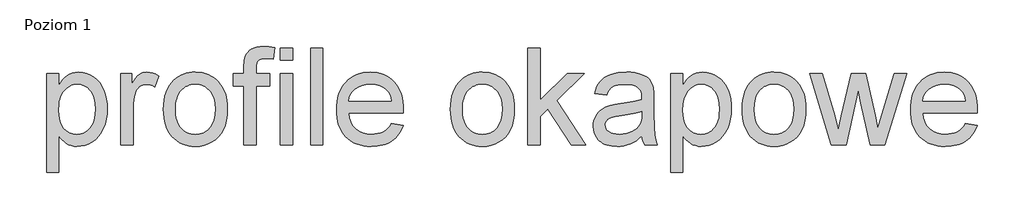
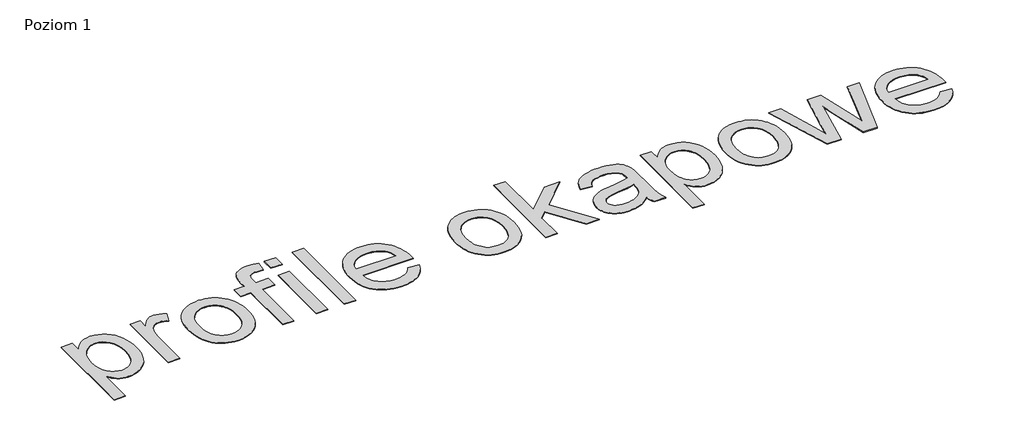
# One storey, part 3 of 4: 1 proxy.
"""IFC4 building model written with IfcOpenShell, lengths in millimetres."""

import ifcopenshell
import ifcopenshell.guid

model = None  # the IFC model being written
_history = None  # IfcOwnerHistory: only IFC2X3 demands one
_inside = {}  # id of a spatial element -> (the spatial element, [elements in it])
_under = {}  # id of a project, library or spatial element -> (it, [spatial elements below it])
_declared = {}  # id of a project -> (the project, [libraries it declares])
_typed = {}  # id of a type object -> (the type object, [elements of that type])
_made_of = {}  # id of a material, layer set ... -> (it, [elements and type objects made of it])


def new_model(schema):
    """Start an empty IFC model of exactly this schema.

    Asked for "IFC4X3", IfcOpenShell would pick the latest addendum, in which some entities
    have other attributes; the version numbers below select the first issue.
    IFC2X3 requires an IfcOwnerHistory on every rooted entity: one is made here for all.
    """
    global model, _history
    if schema == "IFC4X3":
        model = ifcopenshell.file(schema_version=(4, 3, 0, 0))
    else:
        model = ifcopenshell.file(schema=schema)
    _inside.clear()
    _under.clear()
    _declared.clear()
    _typed.clear()
    _made_of.clear()
    _history = None
    if model.schema == "IFC2X3":
        org = make("IfcOrganization", Name="unknown")
        user = make(
            "IfcPersonAndOrganization",
            ThePerson=make("IfcPerson", FamilyName="unknown"),
            TheOrganization=org,
        )
        app = make(
            "IfcApplication",
            ApplicationDeveloper=org,
            Version="unknown",
            ApplicationFullName="unknown",
            ApplicationIdentifier="unknown",
        )
        _history = make(
            "IfcOwnerHistory",
            OwningUser=user,
            OwningApplication=app,
            ChangeAction="ADDED",
            CreationDate=0,
        )
    return model


def make(cls, **values):
    """One entity of the class cls with the attributes given. An attribute that is None is left unset."""
    return model.create_entity(
        cls, **{name: value for name, value in values.items() if value is not None}
    )


def rooted(cls, **values):
    """An entity with a GlobalId (a new one), such as an element, a storey or a relation."""
    return make(cls, GlobalId=ifcopenshell.guid.new(), OwnerHistory=_history, **values)


def si_unit(unit_type, name, prefix=None):
    """IfcSIUnit, for example si_unit("LENGTHUNIT", "METRE", prefix="MILLI")."""
    return make("IfcSIUnit", UnitType=unit_type, Prefix=prefix, Name=name)


def assignment(units):
    """IfcUnitAssignment: the units of a project."""
    return None if units is None else make("IfcUnitAssignment", Units=units)


def point(xyz):
    """IfcCartesianPoint."""
    return None if xyz is None else make("IfcCartesianPoint", Coordinates=xyz)


def direction(xyz):
    """IfcDirection."""
    return None if xyz is None else make("IfcDirection", DirectionRatios=xyz)


def frame(location, z_axis=None, x_axis=None):
    """IfcAxis2Placement3D, a coordinate frame: its origin and axes. An axis left out is left unset."""
    return make(
        "IfcAxis2Placement3D",
        Location=point(location),
        Axis=direction(z_axis),
        RefDirection=direction(x_axis),
    )


def origin():
    """The frame at (0, 0, 0) with its axes left unset."""
    return frame((0.0, 0.0, 0.0))


def origin_with_axes():
    """The frame at (0, 0, 0) with the z axis (0, 0, 1) and the x axis (1, 0, 0) written out."""
    return frame((0.0, 0.0, 0.0), z_axis=(0.0, 0.0, 1.0), x_axis=(1.0, 0.0, 0.0))


def place(relative_to, where):
    """IfcLocalPlacement: puts the frame where relative to a parent placement (None: the world)."""
    return make(
        "IfcLocalPlacement", PlacementRelTo=relative_to, RelativePlacement=where
    )


def context(
    kind, dimensions, precision=None, world=None, true_north=None, identifier=None
):
    """IfcGeometricRepresentationContext, for example the 3D "Model" context."""
    return make(
        "IfcGeometricRepresentationContext",
        ContextIdentifier=identifier,
        ContextType=kind,
        CoordinateSpaceDimension=dimensions,
        Precision=precision,
        WorldCoordinateSystem=world,
        TrueNorth=true_north,
    )


def project(units=None, contexts=None):
    """IfcProject with its units and contexts."""
    return rooted(
        "IfcProject",
        Name="project",
        RepresentationContexts=contexts,
        UnitsInContext=assignment(units),
    )


def spatial(cls, under=None, at=None, **own):
    """A site, building, storey or space (cls), placed at a placement, below another one or the project."""
    s = rooted(cls, ObjectPlacement=at, **own)
    if under is not None:
        _under.setdefault(under.id(), (under, []))[1].append(s)
    return s


def polyline(points):
    """IfcPolyline through the points."""
    return make("IfcPolyline", Points=[point(p) for p in points])


def outline(outer, holes=None, kind="AREA"):
    """IfcArbitraryClosedProfileDef: a profile drawn as a closed curve; with holes, ...WithVoids."""
    if holes is None:
        return make("IfcArbitraryClosedProfileDef", ProfileType=kind, OuterCurve=outer)
    return make(
        "IfcArbitraryProfileDefWithVoids",
        ProfileType=kind,
        OuterCurve=outer,
        InnerCurves=holes,
    )


def extrude(swept, where, along, depth):
    """IfcExtrudedAreaSolid: the profile swept, set in the frame where, extruded along a direction by depth."""
    return make(
        "IfcExtrudedAreaSolid",
        SweptArea=swept,
        Position=where,
        ExtrudedDirection=direction(along),
        Depth=depth,
    )


def shape(context_of_items, identifier, shape_type, items):
    """IfcShapeRepresentation: the items that make up one representation, for example the "Body"."""
    return make(
        "IfcShapeRepresentation",
        ContextOfItems=context_of_items,
        RepresentationIdentifier=identifier,
        RepresentationType=shape_type,
        Items=items,
    )


def made_of(thing, what):
    """Note that an element or type object is made of a material, layer set ...; save() writes the relation."""
    if what is not None:
        _made_of.setdefault(what.id(), (what, []))[1].append(thing)
    return thing


def element(
    cls,
    number,
    at=None,
    inside=None,
    cuts=None,
    type_object=None,
    material=None,
    context=None,
    identifier="Body",
    shape_type=None,
    held_by="IfcProductDefinitionShape",
    body=None,
    shapes=None,
    **own,
):
    """One element of the class cls, such as IfcWall. Its Tag is "e" and its number.

    at: its placement. inside: the storey or other place that contains it. cuts: it is an
    opening in that element (IfcRelVoidsElement). A single representation is given by context,
    identifier, shape_type and body (its items); several are given by shapes. held_by: the class
    of the entity that holds the representations. save() writes the other relations.
    """
    e = rooted(cls, Tag="e%d" % number, ObjectPlacement=at, **own)
    if body is not None:
        shapes = [shape(context, identifier, shape_type, body)]
    if shapes is not None:
        e.Representation = make(held_by, Representations=shapes)
    if inside is not None:
        _inside.setdefault(inside.id(), (inside, []))[1].append(e)
    if cuts is not None:
        rooted(
            "IfcRelVoidsElement", RelatingBuildingElement=cuts, RelatedOpeningElement=e
        )
    if type_object is not None:
        _typed.setdefault(type_object.id(), (type_object, []))[1].append(e)
    return made_of(e, material)


def aggregate(whole, parts):
    """IfcRelAggregates: a whole, such as a stair, and the parts it consists of."""
    return rooted("IfcRelAggregates", RelatingObject=whole, RelatedObjects=parts)


def save(model, path):
    """Write the relations noted so far, then the file.

    IfcRelAggregates (storeys below a building ...), IfcRelContainedInSpatialStructure (elements
    in a storey), IfcRelDefinesByType, IfcRelAssociatesMaterial and IfcRelDeclares: one each for
    every whole, place, type object, material and project.
    """
    for whole, parts in _under.values():
        aggregate(whole, parts)
    for where, things in _inside.values():
        rooted(
            "IfcRelContainedInSpatialStructure",
            RelatedElements=things,
            RelatingStructure=where,
        )
    for kind, things in _typed.values():
        rooted("IfcRelDefinesByType", RelatedObjects=things, RelatingType=kind)
    for what, things in _made_of.values():
        rooted("IfcRelAssociatesMaterial", RelatedObjects=things, RelatingMaterial=what)
    for by, libraries in _declared.values():
        rooted("IfcRelDeclares", RelatingContext=by, RelatedDefinitions=libraries)
    model.write(path)


model = new_model("IFC4")

# Units and contexts
model_context = context("Model", 3, world=origin())
ifc_project = project(units=[si_unit("LENGTHUNIT", "METRE", prefix="MILLI")], contexts=[model_context])

# Site, building, storey
site = spatial("IfcSite", under=ifc_project)
building = spatial("IfcBuilding", under=site)
storey = spatial("IfcBuildingStorey", under=building, Name="Poziom 1", Elevation=0.0)

# Proxy
placement = place(None, origin())
element("IfcBuildingElementProxy", 1, Name="1500 mm Arial", ObjectType="1500 mm Arial", at=placement, inside=storey, context=model_context, shape_type="SweptSolid", body=[
    extrude(outline(polyline([(-117704.3368673, 68747.1535212), (-117704.3368673, 70277.5426211), (-117515.9812857, 70277.5426211), (-117515.9812857, 70092.8658595), (-117486.1828441, 70141.6677054), (-117454.5449925, 70183.9626386), (-117421.067731, 70219.7506589), (-117385.7510594, 70249.0317665), (-117347.5833024, 70271.8059612), (-117305.5527845, 70288.0732432), (-117259.6595056, 70297.8336124), (-117209.9034657, 70301.0870688), (-117144.213537, 70296.5345291), (-117082.5243249, 70282.87691), (-117024.8358295, 70260.1142116), (-116971.1480509, 70228.2464337), (-116922.6336128, 70188.101311), (-116880.4651391, 70140.5065779), (-116844.6426298, 70085.4622344), (-116815.1660849, 70022.9682804), (-116792.1504676, 69955.1630302), (-116775.7107409, 69884.1847978), (-116765.8469049, 69810.0335831), (-116762.5589596, 69732.7093862), (-116766.2722685, 69650.0394041), (-116777.4121952, 69571.6230576), (-116795.9787396, 69497.4603466), (-116821.9719018, 69427.5512712), (-116855.0352961, 69363.7237451), (-116894.8125369, 69307.8056818), (-116941.303624, 69259.7970814), (-116994.5085576, 69219.697944), (-117051.8176746, 69188.0715887), (-117110.6213123, 69165.4813349), (-117170.9194706, 69151.9271827), (-117232.7121494, 69147.4091319), (-117277.1683893, 69150.4326621), (-117319.3023741, 69159.5032525), (-117359.1141037, 69174.6209033), (-117396.6035783, 69195.7856143), (-117431.3109453, 69221.5718429), (-117462.7763522, 69250.5540463), (-117490.999799, 69282.7322246), (-117515.9812857, 69318.1063777), (-117515.9812857, 68747.1535212), (-117704.3368673, 68747.1535212)]), holes=[polyline([(-117515.9812857, 69715.4189325), (-117510.8884194, 69624.6440502), (-117495.6098202, 69546.5610967), (-117484.1508709, 69512.2790933), (-117470.1454884, 69481.170072), (-117453.5936727, 69453.234033), (-117434.4954238, 69428.4709762), (-117391.5796898, 69387.9119863), (-117344.3183497, 69358.9412791), (-117292.7114036, 69341.5588549), (-117236.7588514, 69335.7647135), (-117180.0015573, 69341.7657885), (-117153.2007792, 69349.2671323), (-117127.4519136, 69359.7690136), (-117079.1099201, 69389.7743889), (-117034.975577, 69431.7819142), (-117015.2737717, 69457.4359352), (-116998.1988738, 69486.3893979), (-116983.7508833, 69518.6423021), (-116971.9298001, 69554.1946481), (-116962.7356243, 69593.0464357), (-116956.1683559, 69635.1976649), (-116950.9145411, 69729.3984483), (-116956.0418964, 69819.3915814), (-116971.4239624, 69897.3365791), (-116982.9605118, 69931.7910272), (-116997.0607389, 69963.2334415), (-117013.7246437, 69991.6638219), (-117032.9522261, 70017.0821685), (-117075.9714269, 70058.9287455), (-117122.9913444, 70088.8191576), (-117174.0119786, 70106.7534048), (-117229.0333295, 70112.7314873), (-117256.8630276, 70111.1421221), (-117283.8822357, 70106.3740265), (-117310.0909538, 70098.4272006), (-117335.4891818, 70087.3016443), (-117383.8541679, 70055.5143407), (-117428.9771939, 70011.0121156), (-117449.3687779, 69984.1423596), (-117467.0414841, 69954.3927773), (-117481.9953123, 69921.7633688), (-117494.2302628, 69886.254134), (-117503.7463353, 69847.865073), (-117510.54353, 69806.5961857), (-117515.9812857, 69715.4189325)])]), origin_with_axes(), (0.0, 0.0, 1.0), 10.0),
    extrude(outline(polyline([(-116550.6589304, 69170.9535796), (-116550.6589304, 70277.5426211), (-116385.8477965, 70277.5426211), (-116385.8477965, 70113.8351332), (-116354.8077532, 70166.1663471), (-116324.9633263, 70208.748688), (-116296.314516, 70241.5821561), (-116268.8613221, 70264.6667513), (-116241.3621429, 70280.6006402), (-116212.5753768, 70291.9819894), (-116182.5010237, 70298.8107989), (-116151.1390836, 70301.0870688), (-116104.4180702, 70297.4542341), (-116057.3291748, 70286.55573), (-116009.8723975, 70268.3915565), (-115962.0477381, 70242.9617136), (-116024.9555593, 70074.1038778), (-116058.0649388, 70091.0034569), (-116091.1743184, 70103.0745849), (-116124.283698, 70110.3172617), (-116157.3930775, 70112.7314873), (-116186.2603178, 70110.4092322), (-116213.6330375, 70103.4424669), (-116239.5112366, 70091.8311914), (-116263.8949151, 70075.5754058), (-116285.864368, 70055.2039403), (-116304.4998904, 70031.2456253), (-116319.8014821, 70003.7004609), (-116331.7691433, 69972.5684471), (-116345.1278582, 69921.1569383), (-116354.6697975, 69867.3541965), (-116360.394961, 69811.1602217), (-116362.3033489, 69752.575014), (-116362.3033489, 69170.9535796), (-116550.6589304, 69170.9535796)])), origin_with_axes(), (0.0, 0.0, 1.0), 10.0),
    extrude(outline(polyline([(-115891.414395, 69724.2481004), (-115888.8679618, 69798.3820705), (-115881.2286623, 69867.5611301), (-115868.4964964, 69931.785279), (-115850.6714641, 69991.0545174), (-115827.7535654, 70045.3688451), (-115799.7428004, 70094.7282621), (-115766.6391689, 70139.1327686), (-115728.4426712, 70178.5823644), (-115693.4823853, 70207.2944045), (-115656.6596969, 70232.1781726), (-115617.9746058, 70253.2336686), (-115577.4271121, 70270.4608927), (-115535.0172159, 70283.8598447), (-115490.744917, 70293.4305248), (-115444.6102156, 70299.1729328), (-115396.6131115, 70301.0870688), (-115343.411052, 70298.7561915), (-115292.6979442, 70291.7635595), (-115244.473788, 70280.1091728), (-115198.7385834, 70263.7930315), (-115155.4923304, 70242.8151356), (-115114.735029, 70217.175485), (-115076.4666793, 70186.8740797), (-115040.6872812, 70151.9109198), (-115008.3107915, 70112.8378282), (-114980.2511672, 70070.2066279), (-114956.5084081, 70024.0173189), (-114937.0825143, 69974.2699013), (-114921.9734858, 69920.964375), (-114911.1813226, 69864.1007401), (-114904.7060246, 69803.6789965), (-114902.547592, 69739.6991442), (-114906.3643677, 69638.8764849), (-114917.8146948, 69549.4121821), (-114936.8985733, 69471.306236), (-114963.6160032, 69404.5586465), (-114997.6335914, 69346.9046401), (-115038.617945, 69296.0794432), (-115086.5690638, 69252.0830559), (-115141.4869479, 69214.915478), (-115201.2332831, 69185.3814516), (-115263.6697555, 69164.2857184), (-115328.796365, 69151.6282786), (-115396.6131115, 69147.4091319), (-115450.6544018, 69149.731387), (-115502.0457921, 69156.6981523), (-115550.7872823, 69168.3094278), (-115596.8788726, 69184.5652134), (-115640.3205629, 69205.4655093), (-115681.1123532, 69231.0103153), (-115719.2542435, 69261.1996316), (-115754.7462338, 69296.033458), (-115786.7778341, 69335.2358831), (-115814.5385543, 69378.5309954), (-115838.0283946, 69425.9187949), (-115857.2473547, 69477.3992816), (-115872.1954349, 69532.9724555), (-115882.8726349, 69592.6383166), (-115889.278955, 69656.3968649), (-115891.414395, 69724.2481004)]), holes=[polyline([(-115703.0588135, 69724.6159824), (-115697.6095614, 69633.2547881), (-115690.7979964, 69592.1698419), (-115681.2618053, 69554.1486628), (-115669.0009882, 69519.1912511), (-115654.015545, 69487.2976065), (-115636.3054758, 69458.4677292), (-115615.8707806, 69432.7016192), (-115593.3724974, 69409.9820319), (-115569.471664, 69390.2917229), (-115544.1682805, 69373.6306923), (-115517.4623469, 69359.9989399), (-115489.3538632, 69349.3964658), (-115459.8428294, 69341.8232701), (-115396.6131115, 69335.7647135), (-115333.7052903, 69341.857759), (-115304.320716, 69349.4740659), (-115276.3156991, 69360.1368956), (-115249.6902397, 69373.8462481), (-115224.4443378, 69390.6021234), (-115200.5779933, 69410.4045214), (-115178.0912064, 69433.2534422), (-115157.6565112, 69459.2236118), (-115139.946442, 69488.3897562), (-115124.9609989, 69520.7518755), (-115112.7001817, 69556.3099696), (-115103.1639906, 69595.0640385), (-115096.3524256, 69637.0140823), (-115090.9031735, 69730.5020943), (-115096.3869145, 69818.9662178), (-115103.2415907, 69858.9130291), (-115112.8381375, 69896.0030069), (-115125.1765547, 69930.236151), (-115140.2568424, 69961.6124614), (-115158.0790007, 69990.1319383), (-115178.6430294, 70015.7945815), (-115225.1686054, 70058.2044778), (-115250.4231296, 70074.8655085), (-115277.0054778, 70088.4972608), (-115304.9156501, 70099.0997349), (-115334.1536465, 70106.6729307), (-115396.6131115, 70112.7314873), (-115459.8428294, 70106.6959233), (-115489.3538632, 70099.1514683), (-115517.4623469, 70088.5892313), (-115544.1682805, 70075.0092124), (-115569.471664, 70058.4114114), (-115593.3724974, 70038.7958285), (-115615.8707806, 70016.1624635), (-115636.3054758, 69990.4825758), (-115654.015545, 69961.7274246), (-115669.0009882, 69929.8970097), (-115681.2618053, 69894.9913314), (-115690.7979964, 69857.0103894), (-115697.6095614, 69815.954184), (-115703.0588135, 69724.6159824)])]), origin_with_axes(), (0.0, 0.0, 1.0), 10.0),
    extrude(outline(polyline([(-114643.5586674, 69170.9535796), (-114643.5586674, 70089.1870396), (-114808.3698012, 70089.1870396), (-114808.3698012, 70277.5426211), (-114643.5586674, 70277.5426211), (-114643.5586674, 70389.0108656), (-114638.5922604, 70481.2572759), (-114632.3842518, 70517.1027778), (-114623.6930396, 70546.0964776), (-114607.3222909, 70579.0449088), (-114585.8011941, 70608.7283873), (-114559.1297495, 70635.146913), (-114527.3079569, 70658.3004861), (-114489.6460377, 70677.1314457), (-114445.454213, 70690.5821312), (-114394.7324829, 70698.6525425), (-114337.4808474, 70701.3426795), (-114255.719074, 70696.1923316), (-114165.6799556, 70680.7412878), (-114193.2711053, 70504.1579301), (-114249.0971981, 70510.779806), (-114301.7962939, 70512.987098), (-114340.6653259, 70511.0327249), (-114373.3953272, 70505.1696056), (-114399.9862976, 70495.3977401), (-114420.4382373, 70481.7171284), (-114435.6478585, 70462.7022278), (-114446.5118737, 70436.9274955), (-114453.0302828, 70404.3929316), (-114455.2030859, 70365.098536), (-114455.2030859, 70277.5426211), (-114243.3030566, 70277.5426211), (-114243.3030566, 70089.1870396), (-114455.2030859, 70089.1870396), (-114455.2030859, 69170.9535796), (-114643.5586674, 69170.9535796)])), origin_with_axes(), (0.0, 0.0, 1.0), 10.0),
    extrude(outline(polyline([(-114078.4919228, 69170.9535796), (-114078.4919228, 70277.5426211), (-113890.1363413, 70277.5426211), (-113890.1363413, 69170.9535796), (-114078.4919228, 69170.9535796)])), origin_with_axes(), (0.0, 0.0, 1.0), 10.0),
    extrude(outline(polyline([(-114078.4919228, 70489.4426503), (-114078.4919228, 70677.7982319), (-113890.1363413, 70677.7982319), (-113890.1363413, 70489.4426503), (-114078.4919228, 70489.4426503)])), origin_with_axes(), (0.0, 0.0, 1.0), 10.0),
    extrude(outline(polyline([(-113607.602969, 69170.9535796), (-113607.602969, 70677.7982319), (-113419.2473874, 70677.7982319), (-113419.2473874, 69170.9535796), (-113607.602969, 69170.9535796)])), origin_with_axes(), (0.0, 0.0, 1.0), 10.0),
    extrude(outline(polyline([(-112361.9545333, 69500.5758473), (-112177.2777717, 69477.0313996), (-112205.593189, 69403.0641259), (-112223.4670807, 69369.3741826), (-112243.8184276, 69337.8800349), (-112266.6472298, 69308.5816829), (-112291.9534874, 69281.4791265), (-112319.7372003, 69256.5723658), (-112349.9983685, 69233.8614008), (-112382.5875399, 69213.5991503), (-112417.3552625, 69196.0385332), (-112454.3015363, 69181.1795494), (-112493.4263613, 69169.0221991), (-112578.2116649, 69152.8123987), (-112671.7111732, 69147.4091319), (-112731.7391682, 69149.7400092), (-112788.5826846, 69156.7326412), (-112842.2417225, 69168.3870279), (-112892.7162818, 69184.7031692), (-112940.0063627, 69205.6810651), (-112984.111965, 69231.3207158), (-113025.0330888, 69261.622121), (-113062.7697341, 69296.585281), (-113096.6551148, 69335.7560912), (-113126.0224447, 69378.6804475), (-113150.8717238, 69425.3583497), (-113171.2029522, 69475.7897979), (-113187.0161298, 69529.974792), (-113198.3112567, 69587.9133322), (-113205.0883328, 69649.6054184), (-113207.3473582, 69715.0510505), (-113205.0653402, 69782.7240931), (-113198.2192862, 69846.4998859), (-113186.8091962, 69906.3784288), (-113170.8350702, 69962.3597217), (-113150.2969082, 70014.4437648), (-113125.1947102, 70062.630558), (-113095.5284761, 70106.9201014), (-113061.2982061, 70147.3123948), (-113023.4293533, 70183.353334), (-112982.8473707, 70214.5888147), (-112939.5522584, 70241.0188368), (-112893.5440163, 70262.6434003), (-112844.8226446, 70279.4625053), (-112793.3881431, 70291.4761517), (-112739.240512, 70298.6843395), (-112682.3797511, 70301.0870688), (-112627.3785187, 70298.6900877), (-112574.9467122, 70291.4991443), (-112525.0843315, 70279.5142387), (-112477.7913765, 70262.7353708), (-112433.0678474, 70241.1625407), (-112390.9137441, 70214.7957483), (-112351.3290666, 70183.6349937), (-112314.3138149, 70147.6802768), (-112280.8164348, 70107.3799539), (-112251.7853721, 70063.182381), (-112227.2206266, 70015.0875583), (-112207.1221986, 69963.0954857), (-112191.4900879, 69907.2061632), (-112180.3242945, 69847.4195909), (-112173.6248185, 69783.7357686), (-112171.3916598, 69716.1546965), (-112172.4953058, 69665.3869811), (-113018.9917767, 69665.3869811), (-113008.0817763, 69590.224091), (-112998.5829482, 69556.143273), (-112986.3882349, 69524.3962065), (-112971.4976363, 69494.9828913), (-112953.9111525, 69467.9033276), (-112933.6287834, 69443.1575153), (-112910.6505291, 69420.7454543), (-112858.9975977, 69383.5663802), (-112801.3435913, 69357.0098987), (-112737.6885098, 69341.0760098), (-112668.0323533, 69335.7647135), (-112615.9310657, 69338.2249243), (-112567.7845096, 69345.6055568), (-112523.5926849, 69357.906611), (-112483.3555917, 69375.1280869), (-112447.0732299, 69397.729837), (-112414.7455996, 69426.1717138), (-112386.3727007, 69460.4537172), (-112361.9545333, 69500.5758473)]), holes=[polyline([(-113018.9917767, 69853.7425627), (-112359.7472413, 69853.7425627), (-112369.4271363, 69907.0394667), (-112385.2230695, 69953.2546424), (-112407.1350408, 69992.3880896), (-112435.1630503, 70024.4398084), (-112459.9605961, 70045.1331707), (-112486.5285739, 70063.0674179), (-112514.8669839, 70078.2425502), (-112544.9758259, 70090.6585676), (-112610.5048063, 70107.2132573), (-112683.1155151, 70112.7314873), (-112749.3457705, 70108.3283996), (-112810.0807887, 70095.1191367), (-112865.3205695, 70073.1036986), (-112915.065113, 70042.2820852), (-112956.8082232, 70004.0798393), (-112988.0437038, 69959.9225035), (-113008.771555, 69909.810078), (-113018.9917767, 69853.7425627)])]), origin_with_axes(), (0.0, 0.0, 1.0), 10.0),
    extrude(outline(polyline([(-111441.5137814, 69724.2481004), (-111438.9673482, 69798.3820705), (-111431.3280486, 69867.5611301), (-111418.5958827, 69931.785279), (-111400.7708504, 69991.0545174), (-111377.8529517, 70045.3688451), (-111349.8421867, 70094.7282621), (-111316.7385553, 70139.1327686), (-111278.5420575, 70178.5823644), (-111243.5817716, 70207.2944045), (-111206.7590832, 70232.1781726), (-111168.0739921, 70253.2336686), (-111127.5264985, 70270.4608927), (-111085.1166022, 70283.8598447), (-111040.8443034, 70293.4305248), (-110994.7096019, 70299.1729328), (-110946.7124979, 70301.0870688), (-110893.5104384, 70298.7561915), (-110842.7973305, 70291.7635595), (-110794.5731743, 70280.1091728), (-110748.8379697, 70263.7930315), (-110705.5917167, 70242.8151356), (-110664.8344154, 70217.175485), (-110626.5660656, 70186.8740797), (-110590.7866675, 70151.9109198), (-110558.4101779, 70112.8378282), (-110530.3505535, 70070.2066279), (-110506.6077944, 70024.0173189), (-110487.1819006, 69974.2699013), (-110472.0728721, 69920.964375), (-110461.2807089, 69864.1007401), (-110454.805411, 69803.6789965), (-110452.6469783, 69739.6991442), (-110456.463754, 69638.8764849), (-110467.9140811, 69549.4121821), (-110486.9979596, 69471.306236), (-110513.7153895, 69404.5586465), (-110547.7329778, 69346.9046401), (-110588.7173313, 69296.0794432), (-110636.6684501, 69252.0830559), (-110691.5863342, 69214.915478), (-110751.3326695, 69185.3814516), (-110813.7691418, 69164.2857184), (-110878.8957513, 69151.6282786), (-110946.7124979, 69147.4091319), (-111000.7537881, 69149.731387), (-111052.1451784, 69156.6981523), (-111100.8866687, 69168.3094278), (-111146.978259, 69184.5652134), (-111190.4199493, 69205.4655093), (-111231.2117396, 69231.0103153), (-111269.3536299, 69261.1996316), (-111304.8456202, 69296.033458), (-111336.8772204, 69335.2358831), (-111364.6379407, 69378.5309954), (-111388.1277809, 69425.9187949), (-111407.3467411, 69477.3992816), (-111422.2948212, 69532.9724555), (-111432.9720213, 69592.6383166), (-111439.3783413, 69656.3968649), (-111441.5137814, 69724.2481004)]), holes=[polyline([(-111253.1581998, 69724.6159824), (-111247.7089478, 69633.2547881), (-111240.8973827, 69592.1698419), (-111231.3611916, 69554.1486628), (-111219.1003745, 69519.1912511), (-111204.1149314, 69487.2976065), (-111186.4048622, 69458.4677292), (-111165.970167, 69432.7016192), (-111143.4718837, 69409.9820319), (-111119.5710503, 69390.2917229), (-111094.2676669, 69373.6306923), (-111067.5617333, 69359.9989399), (-111039.4532496, 69349.3964658), (-111009.9422158, 69341.8232701), (-110946.7124979, 69335.7647135), (-110883.8046767, 69341.857759), (-110854.4201023, 69349.4740659), (-110826.4150854, 69360.1368956), (-110799.789626, 69373.8462481), (-110774.5437241, 69390.6021234), (-110750.6773797, 69410.4045214), (-110728.1905927, 69433.2534422), (-110707.7558975, 69459.2236118), (-110690.0458283, 69488.3897562), (-110675.0603852, 69520.7518755), (-110662.7995681, 69556.3099696), (-110653.263377, 69595.0640385), (-110646.4518119, 69637.0140823), (-110641.0025599, 69730.5020943), (-110646.4863009, 69818.9662178), (-110653.3409771, 69858.9130291), (-110662.9375238, 69896.0030069), (-110675.2759411, 69930.236151), (-110690.3562288, 69961.6124614), (-110708.178387, 69990.1319383), (-110728.7424157, 70015.7945815), (-110775.2679918, 70058.2044778), (-110800.5225159, 70074.8655085), (-110827.1048642, 70088.4972608), (-110855.0150365, 70099.0997349), (-110884.2530329, 70106.6729307), (-110946.7124979, 70112.7314873), (-111009.9422158, 70106.6959233), (-111039.4532496, 70099.1514683), (-111067.5617333, 70088.5892313), (-111094.2676669, 70075.0092124), (-111119.5710503, 70058.4114114), (-111143.4718837, 70038.7958285), (-111165.970167, 70016.1624635), (-111186.4048622, 69990.4825758), (-111204.1149314, 69961.7274246), (-111219.1003745, 69929.8970097), (-111231.3611916, 69894.9913314), (-111240.8973827, 69857.0103894), (-111247.7089478, 69815.954184), (-111253.1581998, 69724.6159824)])]), origin_with_axes(), (0.0, 0.0, 1.0), 10.0),
    extrude(outline(polyline([(-110240.7469491, 69170.9535796), (-110240.7469491, 70677.7982319), (-110052.3913676, 70677.7982319), (-110052.3913676, 69868.0899605), (-109630.0628371, 70277.5426211), (-109369.6023845, 70277.5426211), (-109797.0812629, 69862.9396125), (-109346.0579368, 69170.9535796), (-109566.05137, 69170.9535796), (-109932.0939552, 69731.9736223), (-110052.3913676, 69615.3550298), (-110052.3913676, 69170.9535796), (-110240.7469491, 69170.9535796)])), origin_with_axes(), (0.0, 0.0, 1.0), 10.0),
    extrude(outline(polyline([(-108474.9133723, 69312.2202658), (-108519.5765457, 69270.3047109), (-108564.9065053, 69235.0570173), (-108610.903251, 69206.4771848), (-108657.5667829, 69184.5652134), (-108705.4259312, 69168.3094278), (-108755.0095263, 69156.6981523), (-108806.3175684, 69149.731387), (-108859.3500572, 69147.4091319), (-108943.2156558, 69152.9963397), (-108981.2770719, 69159.9803495), (-109016.7575659, 69169.7579631), (-109049.6571378, 69182.3291807), (-109079.9757875, 69197.6940021), (-109107.7135151, 69215.8524275), (-109132.8703206, 69236.8044567), (-109155.2450185, 69259.929289), (-109174.6364234, 69284.6061235), (-109191.0445352, 69310.8349601), (-109204.4693539, 69338.6157989), (-109214.9108796, 69367.9486399), (-109222.3691123, 69398.833483), (-109228.3356984, 69465.2591758), (-109226.0824212, 69505.1973649), (-109219.3225895, 69543.3421292), (-109208.0562034, 69579.6934689), (-109192.2832629, 69614.2513838), (-109172.8429987, 69646.2571174), (-109150.5746417, 69674.951913), (-109125.4781918, 69700.3357707), (-109097.5536491, 69722.4086904), (-109035.2436362, 69758.2771849), (-108965.6679538, 69784.2128656), (-108897.8856962, 69798.6522339), (-108802.69623, 69812.5397792), (-108699.0914631, 69826.7952065), (-108610.1100055, 69842.3382208), (-108535.7518572, 69859.1688221), (-108476.0170182, 69877.2870104), (-108474.9133723, 69919.2255578), (-108478.1553323, 69964.8889105), (-108487.8812126, 70003.2865937), (-108504.091013, 70034.4186075), (-108526.7847336, 70058.284952), (-108566.0101513, 70082.1053112), (-108613.7888254, 70099.1198534), (-108670.120756, 70109.3285788), (-108735.0059428, 70112.7314873), (-108795.3385901, 70110.4667137), (-108847.2099514, 70103.6723931), (-108890.6200268, 70092.3485255), (-108925.5688164, 70076.4951107), (-108954.2866046, 70054.8705472), (-108979.0036762, 70026.2332331), (-108999.720031, 69990.5831686), (-109016.4356692, 69947.9203534), (-109204.7912507, 69971.4648011), (-109190.4553492, 70025.7273954), (-109172.0957384, 70074.4717598), (-109149.7124182, 70117.6978942), (-109123.3053888, 70155.4057987), (-109091.736515, 70188.3542299), (-109053.8676622, 70217.3019444), (-109009.6988301, 70242.2489422), (-108959.2300189, 70263.1952233), (-108903.4844003, 70279.7729057), (-108843.4851462, 70291.6141074), (-108779.2322565, 70298.7188285), (-108710.7257312, 70301.0870688), (-108643.7597117, 70298.9947399), (-108583.3925756, 70292.7177534), (-108529.6243227, 70282.2561092), (-108482.4549532, 70267.6098072), (-108441.4935923, 70249.8020194), (-108406.3493654, 70229.8559175), (-108377.0222726, 70207.7715015), (-108353.5123139, 70183.5487713), (-108334.451428, 70156.5899189), (-108318.4715538, 70126.2971358), (-108305.5726914, 70092.6704222), (-108295.7548406, 70055.709778), (-108288.8570532, 69990.5946649), (-108286.5577907, 69890.8986442), (-108286.5577907, 69656.5578132), (-108284.1665578, 69452.4292912), (-108276.9928589, 69329.3267785), (-108262.829402, 69248.4387248), (-108239.4688953, 69170.9535796), (-108427.8244769, 69170.9535796), (-108444.5631077, 69202.4074902), (-108457.9908005, 69236.4365748), (-108468.1075553, 69273.0408333), (-108474.9133723, 69312.2202658)]), holes=[polyline([(-108474.9133723, 69688.9314288), (-108531.843111, 69672.6296579), (-108601.4647786, 69657.5694887), (-108778.7839003, 69631.1739556), (-108876.5025552, 69616.7345873), (-108940.8359192, 69600.63975), (-108983.0043928, 69579.7624468), (-108999.9844462, 69566.3577466), (-109014.2283772, 69550.9756806), (-109025.4947633, 69534.168072), (-109033.5421819, 69516.4867436), (-109038.3706331, 69497.9316954), (-109039.9801169, 69478.5029276), (-109036.4737416, 69449.2333163), (-109025.9546158, 69422.4928938), (-109008.4227395, 69398.28166), (-108983.8781126, 69376.5996149), (-108952.5506614, 69358.7343455), (-108914.6703122, 69345.9734388), (-108870.237065, 69338.3168948), (-108819.2509197, 69335.7647135), (-108767.1956174, 69338.58131), (-108718.0833711, 69347.0310996), (-108671.9141807, 69361.1140822), (-108628.6880462, 69380.8302579), (-108589.6925548, 69404.5471502), (-108556.2152932, 69430.632283), (-108528.2562616, 69459.085656), (-108505.8154599, 69489.9072694), (-108492.7786417, 69517.4984191), (-108483.4666286, 69550.9756806), (-108477.8794208, 69590.3390541), (-108476.0170182, 69635.5885395), (-108474.9133723, 69688.9314288)])]), origin_with_axes(), (0.0, 0.0, 1.0), 10.0),
    extrude(outline(polyline([(-108027.5688661, 68747.1535212), (-108027.5688661, 70277.5426211), (-107839.2132846, 70277.5426211), (-107839.2132846, 70092.8658595), (-107809.414843, 70141.6677054), (-107777.7769914, 70183.9626386), (-107744.2997298, 70219.7506589), (-107708.9830583, 70249.0317665), (-107670.8153013, 70271.8059612), (-107628.7847834, 70288.0732432), (-107582.8915045, 70297.8336124), (-107533.1354646, 70301.0870688), (-107467.4455358, 70296.5345291), (-107405.7563238, 70282.87691), (-107348.0678284, 70260.1142116), (-107294.3800497, 70228.2464337), (-107245.8656116, 70188.101311), (-107203.6971379, 70140.5065779), (-107167.8746286, 70085.4622344), (-107138.3980838, 70022.9682804), (-107115.3824665, 69955.1630302), (-107098.9427398, 69884.1847978), (-107089.0789038, 69810.0335831), (-107085.7909585, 69732.7093862), (-107089.5042674, 69650.0394041), (-107100.644194, 69571.6230576), (-107119.2107385, 69497.4603466), (-107145.2039007, 69427.5512712), (-107178.267295, 69363.7237451), (-107218.0445357, 69307.8056818), (-107264.5356229, 69259.7970814), (-107317.7405564, 69219.697944), (-107375.0496735, 69188.0715887), (-107433.8533112, 69165.4813349), (-107494.1514694, 69151.9271827), (-107555.9441483, 69147.4091319), (-107600.4003882, 69150.4326621), (-107642.5343729, 69159.5032525), (-107682.3461026, 69174.6209033), (-107719.8355772, 69195.7856143), (-107754.5429441, 69221.5718429), (-107786.008351, 69250.5540463), (-107814.2317979, 69282.7322246), (-107839.2132846, 69318.1063777), (-107839.2132846, 68747.1535212), (-108027.5688661, 68747.1535212)]), holes=[polyline([(-107839.2132846, 69715.4189325), (-107834.1204182, 69624.6440502), (-107818.8418191, 69546.5610967), (-107807.3828698, 69512.2790933), (-107793.3774873, 69481.170072), (-107776.8256716, 69453.234033), (-107757.7274227, 69428.4709762), (-107714.8116887, 69387.9119863), (-107667.5503486, 69358.9412791), (-107615.9434025, 69341.5588549), (-107559.9908503, 69335.7647135), (-107503.2335562, 69341.7657885), (-107476.432778, 69349.2671323), (-107450.6839124, 69359.7690136), (-107402.341919, 69389.7743889), (-107358.2075759, 69431.7819142), (-107338.5057706, 69457.4359352), (-107321.4308727, 69486.3893979), (-107306.9828822, 69518.6423021), (-107295.161799, 69554.1946481), (-107285.9676232, 69593.0464357), (-107279.4003547, 69635.1976649), (-107274.14654, 69729.3984483), (-107279.2738953, 69819.3915814), (-107294.6559612, 69897.3365791), (-107306.1925107, 69931.7910272), (-107320.2927378, 69963.2334415), (-107336.9566425, 69991.6638219), (-107356.1842249, 70017.0821685), (-107399.2034257, 70058.9287455), (-107446.2233432, 70088.8191576), (-107497.2439775, 70106.7534048), (-107552.2653284, 70112.7314873), (-107580.0950265, 70111.1421221), (-107607.1142346, 70106.3740265), (-107633.3229527, 70098.4272006), (-107658.7211807, 70087.3016443), (-107707.0861668, 70055.5143407), (-107752.2091927, 70011.0121156), (-107772.6007768, 69984.1423596), (-107790.2734829, 69954.3927773), (-107805.2273112, 69921.7633688), (-107817.4622616, 69886.254134), (-107826.9783342, 69847.865073), (-107833.7755289, 69806.5961857), (-107839.2132846, 69715.4189325)])]), origin_with_axes(), (0.0, 0.0, 1.0), 10.0),
    extrude(outline(polyline([(-106920.9798246, 69724.2481004), (-106918.4333914, 69798.3820705), (-106910.7940919, 69867.5611301), (-106898.061926, 69931.785279), (-106880.2368937, 69991.0545174), (-106857.318995, 70045.3688451), (-106829.30823, 70094.7282621), (-106796.2045986, 70139.1327686), (-106758.0081008, 70178.5823644), (-106723.0478149, 70207.2944045), (-106686.2251265, 70232.1781726), (-106647.5400354, 70253.2336686), (-106606.9925417, 70270.4608927), (-106564.5826455, 70283.8598447), (-106520.3103466, 70293.4305248), (-106474.1756452, 70299.1729328), (-106426.1785411, 70301.0870688), (-106372.9764816, 70298.7561915), (-106322.2633738, 70291.7635595), (-106274.0392176, 70280.1091728), (-106228.304013, 70263.7930315), (-106185.05776, 70242.8151356), (-106144.3004586, 70217.175485), (-106106.0321089, 70186.8740797), (-106070.2527108, 70151.9109198), (-106037.8762211, 70112.8378282), (-106009.8165968, 70070.2066279), (-105986.0738377, 70024.0173189), (-105966.6479439, 69974.2699013), (-105951.5389154, 69920.964375), (-105940.7467522, 69864.1007401), (-105934.2714542, 69803.6789965), (-105932.1130216, 69739.6991442), (-105935.9297973, 69638.8764849), (-105947.3801244, 69549.4121821), (-105966.4640029, 69471.306236), (-105993.1814328, 69404.5586465), (-106027.199021, 69346.9046401), (-106068.1833746, 69296.0794432), (-106116.1344934, 69252.0830559), (-106171.0523775, 69214.915478), (-106230.7987127, 69185.3814516), (-106293.2351851, 69164.2857184), (-106358.3617946, 69151.6282786), (-106426.1785411, 69147.4091319), (-106480.2198314, 69149.731387), (-106531.6112217, 69156.6981523), (-106580.352712, 69168.3094278), (-106626.4443022, 69184.5652134), (-106669.8859925, 69205.4655093), (-106710.6777828, 69231.0103153), (-106748.8196731, 69261.1996316), (-106784.3116634, 69296.033458), (-106816.3432637, 69335.2358831), (-106844.103984, 69378.5309954), (-106867.5938242, 69425.9187949), (-106886.8127843, 69477.3992816), (-106901.7608645, 69532.9724555), (-106912.4380646, 69592.6383166), (-106918.8443846, 69656.3968649), (-106920.9798246, 69724.2481004)]), holes=[polyline([(-106732.6242431, 69724.6159824), (-106727.174991, 69633.2547881), (-106720.363426, 69592.1698419), (-106710.8272349, 69554.1486628), (-106698.5664178, 69519.1912511), (-106683.5809746, 69487.2976065), (-106665.8709054, 69458.4677292), (-106645.4362102, 69432.7016192), (-106622.937927, 69409.9820319), (-106599.0370936, 69390.2917229), (-106573.7337101, 69373.6306923), (-106547.0277765, 69359.9989399), (-106518.9192928, 69349.3964658), (-106489.408259, 69341.8232701), (-106426.1785411, 69335.7647135), (-106363.2707199, 69341.857759), (-106333.8861456, 69349.4740659), (-106305.8811287, 69360.1368956), (-106279.2556693, 69373.8462481), (-106254.0097674, 69390.6021234), (-106230.1434229, 69410.4045214), (-106207.656636, 69433.2534422), (-106187.2219408, 69459.2236118), (-106169.5118716, 69488.3897562), (-106154.5264285, 69520.7518755), (-106142.2656113, 69556.3099696), (-106132.7294202, 69595.0640385), (-106125.9178552, 69637.0140823), (-106120.4686031, 69730.5020943), (-106125.9523441, 69818.9662178), (-106132.8070204, 69858.9130291), (-106142.4035671, 69896.0030069), (-106154.7419843, 69930.236151), (-106169.822272, 69961.6124614), (-106187.6444303, 69990.1319383), (-106208.208459, 70015.7945815), (-106254.7340351, 70058.2044778), (-106279.9885592, 70074.8655085), (-106306.5709074, 70088.4972608), (-106334.4810797, 70099.0997349), (-106363.7190761, 70106.6729307), (-106426.1785411, 70112.7314873), (-106489.408259, 70106.6959233), (-106518.9192928, 70099.1514683), (-106547.0277765, 70088.5892313), (-106573.7337101, 70075.0092124), (-106599.0370936, 70058.4114114), (-106622.937927, 70038.7958285), (-106645.4362102, 70016.1624635), (-106665.8709054, 69990.4825758), (-106683.5809746, 69961.7274246), (-106698.5664178, 69929.8970097), (-106710.8272349, 69894.9913314), (-106720.363426, 69857.0103894), (-106727.174991, 69815.954184), (-106732.6242431, 69724.6159824)])]), origin_with_axes(), (0.0, 0.0, 1.0), 10.0),
    extrude(outline(polyline([(-105536.6398768, 69170.9535796), (-105873.2519024, 70277.5426211), (-105677.5386809, 70277.5426211), (-105486.6079254, 69631.9097196), (-105429.5862162, 69401.2477086), (-105382.8652028, 69623.4484337), (-105230.9299388, 70277.5426211), (-105006.5219217, 70277.5426211), (-104855.3224217, 69625.2878437), (-104813.7517563, 69424.0563923), (-104754.154873, 69636.3243035), (-104562.8562355, 70277.5426211), (-104366.4072501, 70277.5426211), (-104705.5944497, 69170.9535796), (-104933.3134047, 69170.9535796), (-105077.8910288, 69819.8974191), (-105119.8295762, 70022.2325165), (-105306.3457478, 69170.9535796), (-105536.6398768, 69170.9535796)])), origin_with_axes(), (0.0, 0.0, 1.0), 10.0),
    extrude(outline(polyline([(-103462.153306, 69500.5758473), (-103277.4765444, 69477.0313996), (-103305.7919617, 69403.0641259), (-103323.6658533, 69369.3741826), (-103344.0172003, 69337.8800349), (-103366.8460025, 69308.5816829), (-103392.1522601, 69281.4791265), (-103419.935973, 69256.5723658), (-103450.1971411, 69233.8614008), (-103482.7863126, 69213.5991503), (-103517.5540352, 69196.0385332), (-103554.500309, 69181.1795494), (-103593.625134, 69169.0221991), (-103678.4104376, 69152.8123987), (-103771.9099459, 69147.4091319), (-103831.9379409, 69149.7400092), (-103888.7814573, 69156.7326412), (-103942.4404952, 69168.3870279), (-103992.9150545, 69184.7031692), (-104040.2051354, 69205.6810651), (-104084.3107377, 69231.3207158), (-104125.2318615, 69261.622121), (-104162.9685068, 69296.585281), (-104196.8538874, 69335.7560912), (-104226.2212173, 69378.6804475), (-104251.0704965, 69425.3583497), (-104271.4017249, 69475.7897979), (-104287.2149025, 69529.974792), (-104298.5100294, 69587.9133322), (-104305.2871055, 69649.6054184), (-104307.5461309, 69715.0510505), (-104305.2641129, 69782.7240931), (-104298.4180589, 69846.4998859), (-104287.0079689, 69906.3784288), (-104271.0338429, 69962.3597217), (-104250.4956809, 70014.4437648), (-104225.3934828, 70062.630558), (-104195.7272488, 70106.9201014), (-104161.4969788, 70147.3123948), (-104123.6281259, 70183.353334), (-104083.0461433, 70214.5888147), (-104039.751031, 70241.0188368), (-103993.742789, 70262.6434003), (-103945.0214173, 70279.4625053), (-103893.5869158, 70291.4761517), (-103839.4392847, 70298.6843395), (-103782.5785238, 70301.0870688), (-103727.5772914, 70298.6900877), (-103675.1454849, 70291.4991443), (-103625.2831041, 70279.5142387), (-103577.9901492, 70262.7353708), (-103533.2666201, 70241.1625407), (-103491.1125168, 70214.7957483), (-103451.5278393, 70183.6349937), (-103414.5125876, 70147.6802768), (-103381.0152075, 70107.3799539), (-103351.9841447, 70063.182381), (-103327.4193993, 70015.0875583), (-103307.3209713, 69963.0954857), (-103291.6888605, 69907.2061632), (-103280.5230672, 69847.4195909), (-103273.8235912, 69783.7357686), (-103271.5904325, 69716.1546965), (-103272.6940785, 69665.3869811), (-104119.1905494, 69665.3869811), (-104108.2805489, 69590.224091), (-104098.7817209, 69556.143273), (-104086.5870075, 69524.3962065), (-104071.696409, 69494.9828913), (-104054.1099252, 69467.9033276), (-104033.8275561, 69443.1575153), (-104010.8493018, 69420.7454543), (-103959.1963704, 69383.5663802), (-103901.542364, 69357.0098987), (-103837.8872825, 69341.0760098), (-103768.231126, 69335.7647135), (-103716.1298384, 69338.2249243), (-103667.9832823, 69345.6055568), (-103623.7914576, 69357.906611), (-103583.5543644, 69375.1280869), (-103547.2720026, 69397.729837), (-103514.9443723, 69426.1717138), (-103486.5714734, 69460.4537172), (-103462.153306, 69500.5758473)]), holes=[polyline([(-104119.1905494, 69853.7425627), (-103459.946014, 69853.7425627), (-103469.625909, 69907.0394667), (-103485.4218422, 69953.2546424), (-103507.3338135, 69992.3880896), (-103535.361823, 70024.4398084), (-103560.1593688, 70045.1331707), (-103586.7273466, 70063.0674179), (-103615.0657565, 70078.2425502), (-103645.1745986, 70090.6585676), (-103710.703579, 70107.2132573), (-103783.3142878, 70112.7314873), (-103849.5445432, 70108.3283996), (-103910.2795614, 70095.1191367), (-103965.5193422, 70073.1036986), (-104015.2638857, 70042.2820852), (-104057.0069959, 70004.0798393), (-104088.2424765, 69959.9225035), (-104108.9703277, 69909.810078), (-104119.1905494, 69853.7425627)])]), origin_with_axes(), (0.0, 0.0, 1.0), 10.0),
])

save(model, "model.ifc")
